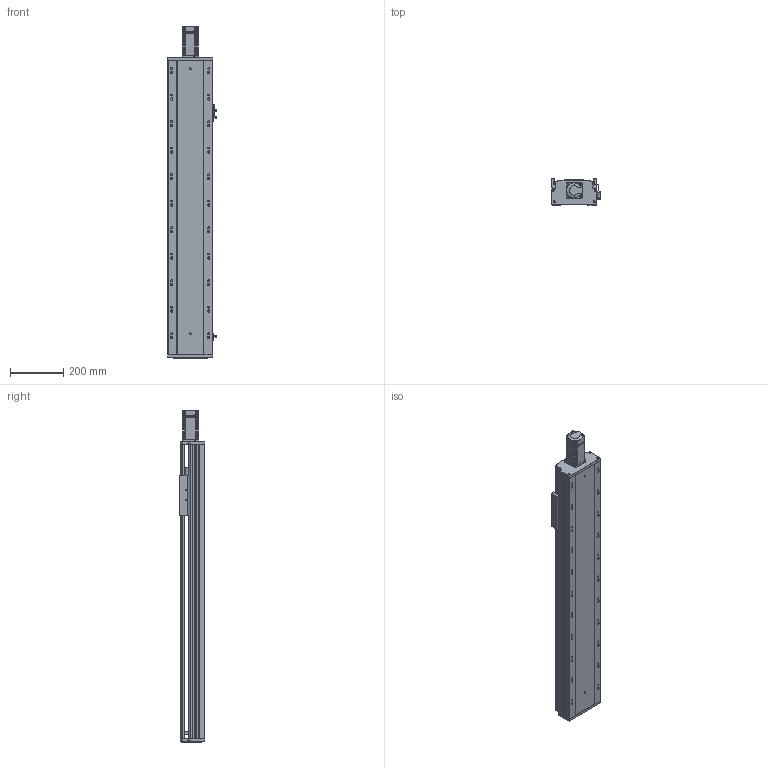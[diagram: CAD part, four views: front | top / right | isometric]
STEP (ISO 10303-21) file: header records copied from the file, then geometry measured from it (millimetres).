
FILE_DESCRIPTION (( 'STEP AP203' ), '1' );
FILE_NAME ('RY170-L2020-300-MK.SLDASM_800.step', '2021-02-20T03:51:02', ( '盈信电脑' ), ( '东莞市道滘镇水果街19号' ), 'SwSTEP 2.0', 'SolidWorks 2012', '' );
FILE_SCHEMA (( 'CONFIG_CONTROL_DESIGN' ));
Length unit declared in the file: millimetre
Products named in the file (12): RY170-L2020-300-MK.SLDASM_800; 滅袉蝶18-28; 滅袉蝶18-10; RY170ヶ醱裔啣; RY170綴裔啣; RY170外置感应片(200共用）; 覜茼ん672; RY170臏賑輸20佪裝蹟譫; 侂狟400W侜督萇儂; 15; RY170-300倰第裔啣-MK_800; RY170-300倰第菁釱-MK_800
Assembly tree (13 placements, depth 3):
  RY170-L2020-300-MK.SLDASM_800
    RY170-300倰第菁釱-MK_800
    RY170-300倰第裔啣-MK_800
    RY170臏賑輸20佪裝蹟譫
    侂狟400W侜督萇儂
      15
    RY170綴裔啣
    覜茼ん672  x3
    RY170外置感应片(200共用）
    RY170ヶ醱裔啣
    滅袉蝶18-28
    滅袉蝶18-10
Bounding box: 183.7 x 97 x 1252.5 mm (x, y, z)
Volume: 5858713 mm3; surface area: 1880380.1 mm2
Topology: 12 solids, 12 shells, 2206 faces, 6424 edges, 4154 vertices
Faces by surface type: plane 1166, cylinder 836, cone 175, bspline 29
Entity records: 71565 total; most frequent: CARTESIAN_POINT 16423, ORIENTED_EDGE 11636, DIRECTION 10865, EDGE_CURVE 5818, VERTEX_POINT 3834, VECTOR 3653, LINE 3653, AXIS2_PLACEMENT_3D 3606
